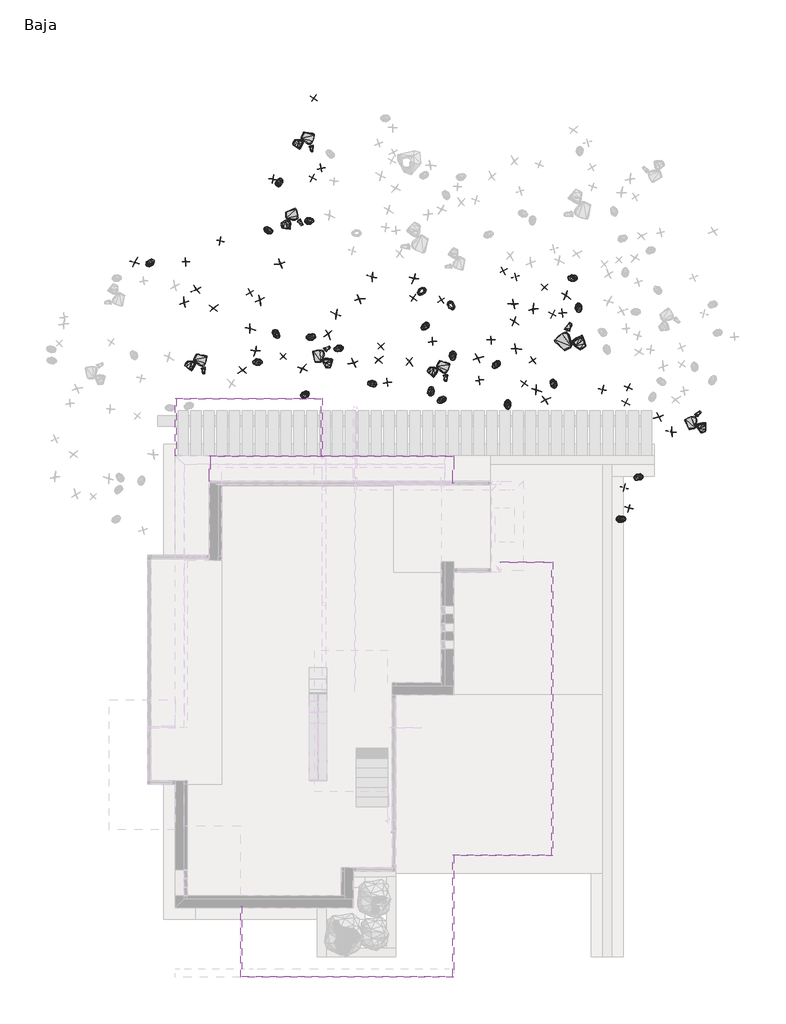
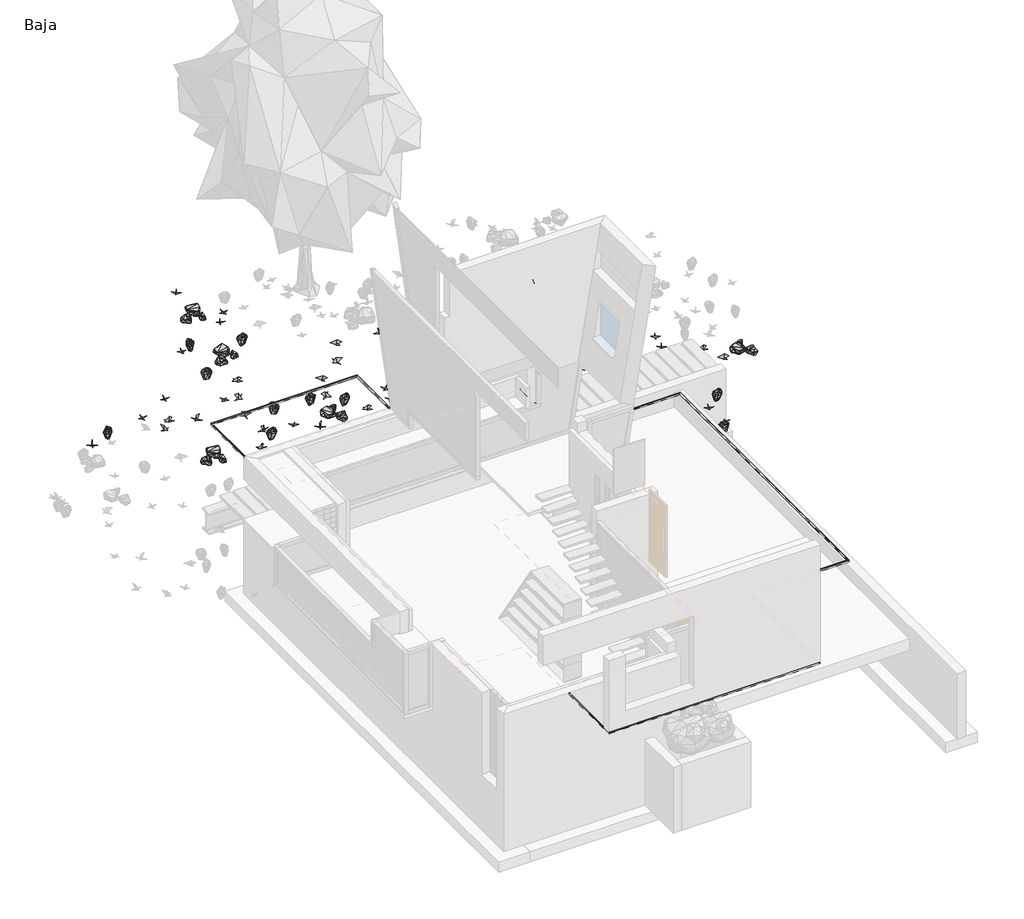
# One storey, part 6 of 7: 85 geographic elements, 3 proxies.
"""IFC4 building model written with IfcOpenShell, lengths in millimetres."""

from ifc_helpers import new_model, si_unit, origin, place, context, project, spatial, transform, mapped, element, save
from components import borde_2_borde_2_66326f44, borde_3_borde_3_d60ba3d7, barrido_1_barrido_1_4d5a64a3, enscape_assetdefinition_bush_025_fern_enscape_5718bf32, enscape_assetdefinition_bush_054_plant_09_version_2_enscape_7b546a12, enscape_assetdefinition_bush_062_plant_09_version_3_enscape_ccf8c8eb, enscape_assetdefinition_stone_013_group_enscape_516da325, enscape_assetdefinition_stone_013_group_enscape_db9b3e91

model = new_model("IFC4")

# Units and contexts
model_context = context("Model", 3, world=origin())
ifc_project = project(units=[si_unit("LENGTHUNIT", "METRE", prefix="MILLI")], contexts=[model_context])

# Site, building, storey
site = spatial("IfcSite", under=ifc_project)
building = spatial("IfcBuilding", under=site)
storey = spatial("IfcBuildingStorey", under=building, Name="Baja", Elevation=0.0)

# Proxies
placement = place(None, origin())
borde_2_borde_2_shape = borde_2_borde_2_66326f44(model_context)
element("IfcBuildingElementProxy", 1, Name="Borde 2 : Borde 2", ObjectType="Borde 2 : Borde 2", at=placement, inside=storey, context=model_context, shape_type="MappedRepresentation", body=[
    mapped(borde_2_borde_2_shape, transform((0.0, 0.0, 0.0), x_axis=(1.0, 0.0, 0.0), y_axis=(0.0, 1.0, 0.0), z_axis=(0.0, 0.0, 1.0))),
])
borde_3_borde_3_shape = borde_3_borde_3_d60ba3d7(model_context)
element("IfcBuildingElementProxy", 2, Name="Borde 3 : Borde 3", ObjectType="Borde 3 : Borde 3", at=placement, inside=storey, context=model_context, shape_type="MappedRepresentation", body=[
    mapped(borde_3_borde_3_shape, transform((0.0, 0.0, 0.0), x_axis=(1.0, 0.0, 0.0), y_axis=(0.0, 1.0, 0.0), z_axis=(0.0, 0.0, 1.0))),
])
barrido_1_barrido_1_shape = barrido_1_barrido_1_4d5a64a3(model_context)
element("IfcBuildingElementProxy", 3, Name="barrido 1 : barrido 1", ObjectType="barrido 1 : barrido 1", at=placement, inside=storey, context=model_context, shape_type="MappedRepresentation", body=[
    mapped(barrido_1_barrido_1_shape, transform((0.0, 0.0, 0.0), x_axis=(1.0, 0.0, 0.0), y_axis=(0.0, 1.0, 0.0), z_axis=(0.0, 0.0, 1.0))),
])

# Geographic elements
enscape_assetdefinition_bush_025_fern_enscape_shape = enscape_assetdefinition_bush_025_fern_enscape_5718bf32(model_context)
element("IfcGeographicElement", 4, ObjectType="Enscape AssetDefinition - Bush 025 Fern : Enscape AssetDefinition - Bush 025 Fern", at=placement, inside=storey, context=model_context, shape_type="MappedRepresentation", body=[
    mapped(enscape_assetdefinition_bush_025_fern_enscape_shape, transform((3124.9675751, 4466.8464661, 663.1121039), x_axis=(-0.017111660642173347, 0.9998535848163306, 0.0), y_axis=(-0.9998535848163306, -0.017111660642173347, 0.0), z_axis=(0.0, 0.0, 1.0))),
])
element("IfcGeographicElement", 5, ObjectType="Enscape AssetDefinition - Bush 025 Fern : Enscape AssetDefinition - Bush 025 Fern", at=placement, inside=storey, context=model_context, shape_type="MappedRepresentation", body=[
    mapped(enscape_assetdefinition_bush_025_fern_enscape_shape, transform((453.2394409, 5693.780899, 776.8011093), x_axis=(-0.9473340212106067, -0.3202471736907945, 0.0), y_axis=(0.3202471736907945, -0.9473340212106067, 0.0), z_axis=(0.0, 0.0, 1.0))),
])
element("IfcGeographicElement", 6, ObjectType="Enscape AssetDefinition - Bush 025 Fern : Enscape AssetDefinition - Bush 025 Fern", at=placement, inside=storey, context=model_context, shape_type="MappedRepresentation", body=[
    mapped(enscape_assetdefinition_bush_025_fern_enscape_shape, transform((9078.9403915, 1995.8076477, 133.4597468), x_axis=(-0.9260826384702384, -0.37732074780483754, 0.0), y_axis=(0.37732074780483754, -0.9260826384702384, 0.0), z_axis=(0.0, 0.0, 1.0))),
])
element("IfcGeographicElement", 7, ObjectType="Enscape AssetDefinition - Bush 025 Fern : Enscape AssetDefinition - Bush 025 Fern", at=placement, inside=storey, context=model_context, shape_type="MappedRepresentation", body=[
    mapped(enscape_assetdefinition_bush_025_fern_enscape_shape, transform((-4946.0601807, 8155.1055908, 168.9269543), x_axis=(0.6920467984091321, 0.7218526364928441, 0.0), y_axis=(-0.7218526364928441, 0.6920467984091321, 0.0), z_axis=(0.0, 0.0, 1.0))),
])
element("IfcGeographicElement", 8, ObjectType="Enscape AssetDefinition - Bush 025 Fern : Enscape AssetDefinition - Bush 025 Fern", at=placement, inside=storey, context=model_context, shape_type="MappedRepresentation", body=[
    mapped(enscape_assetdefinition_bush_025_fern_enscape_shape, transform((5323.102951, 4075.3498077, 716.2405252), x_axis=(0.17534465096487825, -0.9845071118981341, 0.0), y_axis=(0.9845071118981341, 0.17534465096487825, 0.0), z_axis=(0.0, 0.0, 1.0))),
])
element("IfcGeographicElement", 9, ObjectType="Enscape AssetDefinition - Bush 025 Fern : Enscape AssetDefinition - Bush 025 Fern", at=placement, inside=storey, context=model_context, shape_type="MappedRepresentation", body=[
    mapped(enscape_assetdefinition_bush_025_fern_enscape_shape, transform((8590.6581879, 782.3352814, 75.4344463), x_axis=(0.9832940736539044, 0.18202407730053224, 0.0), y_axis=(-0.18202407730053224, 0.9832940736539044, 0.0), z_axis=(0.0, 0.0, 1.0))),
])
element("IfcGeographicElement", 10, ObjectType="Enscape AssetDefinition - Bush 025 Fern : Enscape AssetDefinition - Bush 025 Fern", at=placement, inside=storey, context=model_context, shape_type="MappedRepresentation", body=[
    mapped(enscape_assetdefinition_bush_025_fern_enscape_shape, transform((2845.1402187, 7332.3454857, 999.9999404), x_axis=(-0.737837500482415, -0.6749783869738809, 0.0), y_axis=(0.6749783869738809, -0.737837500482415, 0.0), z_axis=(0.0, 0.0, 1.0))),
])
element("IfcGeographicElement", 11, ObjectType="Enscape AssetDefinition - Bush 025 Fern : Enscape AssetDefinition - Bush 025 Fern", at=placement, inside=storey, context=model_context, shape_type="MappedRepresentation", body=[
    mapped(enscape_assetdefinition_bush_025_fern_enscape_shape, transform((7359.9834442, 6856.6589355, 819.9136853), x_axis=(0.1440197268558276, -0.9895748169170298, 0.0), y_axis=(0.9895748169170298, 0.1440197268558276, 0.0), z_axis=(0.0, 0.0, 1.0))),
])
element("IfcGeographicElement", 12, ObjectType="Enscape AssetDefinition - Bush 025 Fern : Enscape AssetDefinition - Bush 025 Fern", at=placement, inside=storey, context=model_context, shape_type="MappedRepresentation", body=[
    mapped(enscape_assetdefinition_bush_025_fern_enscape_shape, transform((-1238.78479, 10473.3114243, 151.7597437), x_axis=(0.3325033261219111, 0.9431020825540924, 0.0), y_axis=(-0.9431020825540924, 0.3325033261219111, 0.0), z_axis=(0.0, 0.0, 1.0))),
])
element("IfcGeographicElement", 13, ObjectType="Enscape AssetDefinition - Bush 025 Fern : Enscape AssetDefinition - Bush 025 Fern", at=placement, inside=storey, context=model_context, shape_type="MappedRepresentation", body=[
    mapped(enscape_assetdefinition_bush_025_fern_enscape_shape, transform((1421.7433929, 4683.0997467, 588.2584453), x_axis=(-0.9980609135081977, 0.062244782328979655, 0.0), y_axis=(-0.062244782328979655, -0.9980609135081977, 0.0), z_axis=(0.0, 0.0, 1.0))),
])
element("IfcGeographicElement", 14, ObjectType="Enscape AssetDefinition - Bush 025 Fern : Enscape AssetDefinition - Bush 025 Fern", at=placement, inside=storey, context=model_context, shape_type="MappedRepresentation", body=[
    mapped(enscape_assetdefinition_bush_025_fern_enscape_shape, transform((-373.8460541, 9353.0874252, 689.0330315), x_axis=(0.9766416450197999, 0.2148746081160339, 0.0), y_axis=(-0.2148746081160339, 0.9766416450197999, 0.0), z_axis=(0.0, 0.0, 1.0))),
])
element("IfcGeographicElement", 15, ObjectType="Enscape AssetDefinition - Bush 025 Fern : Enscape AssetDefinition - Bush 025 Fern", at=placement, inside=storey, context=model_context, shape_type="MappedRepresentation", body=[
    mapped(enscape_assetdefinition_bush_025_fern_enscape_shape, transform((-1335.8154297, 6099.2469788, 889.3393278), x_axis=(0.6645464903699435, -0.7472469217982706, 0.0), y_axis=(0.7472469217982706, 0.6645464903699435, 0.0), z_axis=(0.0, 0.0, 1.0))),
])
element("IfcGeographicElement", 16, ObjectType="Enscape AssetDefinition - Bush 025 Fern : Enscape AssetDefinition - Bush 025 Fern", at=placement, inside=storey, context=model_context, shape_type="MappedRepresentation", body=[
    mapped(enscape_assetdefinition_bush_025_fern_enscape_shape, transform((7184.694767, 7720.3822136, 878.4562945), x_axis=(-0.9876590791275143, -0.1566191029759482, 0.0), y_axis=(0.1566191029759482, -0.9876590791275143, 0.0), z_axis=(0.0, 0.0, 1.0))),
])
element("IfcGeographicElement", 17, ObjectType="Enscape AssetDefinition - Bush 025 Fern : Enscape AssetDefinition - Bush 025 Fern", at=placement, inside=storey, context=model_context, shape_type="MappedRepresentation", body=[
    mapped(enscape_assetdefinition_bush_025_fern_enscape_shape, transform((6645.5440521, 4691.7915344, 678.5098314), x_axis=(-0.4882452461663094, 0.8727064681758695, 0.0), y_axis=(-0.8727064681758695, -0.4882452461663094, 0.0), z_axis=(0.0, 0.0, 1.0))),
])
element("IfcGeographicElement", 18, ObjectType="Enscape AssetDefinition - Bush 025 Fern : Enscape AssetDefinition - Bush 025 Fern", at=placement, inside=storey, context=model_context, shape_type="MappedRepresentation", body=[
    mapped(enscape_assetdefinition_bush_025_fern_enscape_shape, transform((3700.8800507, 6923.3598709, 999.9999404), x_axis=(0.650219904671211, -0.7597460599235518, 0.0), y_axis=(0.7597460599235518, 0.650219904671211, 0.0), z_axis=(0.0, 0.0, 1.0))),
])
element("IfcGeographicElement", 19, ObjectType="Enscape AssetDefinition - Bush 025 Fern : Enscape AssetDefinition - Bush 025 Fern", at=placement, inside=storey, context=model_context, shape_type="MappedRepresentation", body=[
    mapped(enscape_assetdefinition_bush_025_fern_enscape_shape, transform((-322.0214844, 6020.4558372, 865.8348918), x_axis=(0.9618193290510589, 0.2736851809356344, 0.0), y_axis=(-0.2736851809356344, 0.9618193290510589, 0.0), z_axis=(0.0, 0.0, 1.0))),
])
element("IfcGeographicElement", 20, ObjectType="Enscape AssetDefinition - Bush 025 Fern : Enscape AssetDefinition - Bush 025 Fern", at=placement, inside=storey, context=model_context, shape_type="MappedRepresentation", body=[
    mapped(enscape_assetdefinition_bush_025_fern_enscape_shape, transform((-1878.1299591, 5305.8209419, 784.9656343), x_axis=(-0.9836510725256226, -0.18008488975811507, 0.0), y_axis=(0.18008488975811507, -0.9836510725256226, 0.0), z_axis=(0.0, 0.0, 1.0))),
])
element("IfcGeographicElement", 21, ObjectType="Enscape AssetDefinition - Bush 025 Fern : Enscape AssetDefinition - Bush 025 Fern", at=placement, inside=storey, context=model_context, shape_type="MappedRepresentation", body=[
    mapped(enscape_assetdefinition_bush_025_fern_enscape_shape, transform((4987.5583649, 5225.8877754, 886.8914247), x_axis=(-0.6309398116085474, -0.7758317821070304, 0.0), y_axis=(0.7758317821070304, -0.6309398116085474, 0.0), z_axis=(0.0, 0.0, 1.0))),
])
element("IfcGeographicElement", 22, ObjectType="Enscape AssetDefinition - Bush 025 Fern : Enscape AssetDefinition - Bush 025 Fern", at=placement, inside=storey, context=model_context, shape_type="MappedRepresentation", body=[
    mapped(enscape_assetdefinition_bush_025_fern_enscape_shape, transform((2943.4680939, 6328.5121918, 893.8754797), x_axis=(-0.6813975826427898, -0.7319134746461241, 0.0), y_axis=(0.7319134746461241, -0.6813975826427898, 0.0), z_axis=(0.0, 0.0, 1.0))),
])
element("IfcGeographicElement", 23, ObjectType="Enscape AssetDefinition - Bush 025 Fern : Enscape AssetDefinition - Bush 025 Fern", at=placement, inside=storey, context=model_context, shape_type="MappedRepresentation", body=[
    mapped(enscape_assetdefinition_bush_025_fern_enscape_shape, transform((-1553.9283752, 9080.7962418, 217.5893188), x_axis=(0.9543823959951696, -0.298587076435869, 0.0), y_axis=(0.298587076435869, 0.9543823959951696, 0.0), z_axis=(0.0, 0.0, 1.0))),
])
element("IfcGeographicElement", 24, ObjectType="Enscape AssetDefinition - Bush 025 Fern : Enscape AssetDefinition - Bush 025 Fern", at=placement, inside=storey, context=model_context, shape_type="MappedRepresentation", body=[
    mapped(enscape_assetdefinition_bush_025_fern_enscape_shape, transform((3416.6924953, 4213.0088806, 651.9014835), x_axis=(-0.8236544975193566, -0.5670919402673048, 0.0), y_axis=(0.5670919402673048, -0.8236544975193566, 0.0), z_axis=(0.0, 0.0, 1.0))),
])
element("IfcGeographicElement", 25, ObjectType="Enscape AssetDefinition - Bush 025 Fern : Enscape AssetDefinition - Bush 025 Fern", at=placement, inside=storey, context=model_context, shape_type="MappedRepresentation", body=[
    mapped(enscape_assetdefinition_bush_025_fern_enscape_shape, transform((3743.2041168, 5477.0069122, 895.7661986), x_axis=(0.1075754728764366, -0.9941969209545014, 0.0), y_axis=(0.9941969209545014, 0.1075754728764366, 0.0), z_axis=(0.0, 0.0, 1.0))),
])
element("IfcGeographicElement", 26, ObjectType="Enscape AssetDefinition - Bush 025 Fern : Enscape AssetDefinition - Bush 025 Fern", at=placement, inside=storey, context=model_context, shape_type="MappedRepresentation", body=[
    mapped(enscape_assetdefinition_bush_025_fern_enscape_shape, transform((-516.0788894, 4362.9493713, 664.9568677), x_axis=(-0.8085145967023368, -0.5884761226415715, 0.0), y_axis=(0.5884761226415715, -0.8085145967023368, 0.0), z_axis=(0.0, 0.0, 1.0))),
])
enscape_assetdefinition_bush_054_plant_09_version_2_enscape_shape = enscape_assetdefinition_bush_054_plant_09_version_2_enscape_7b546a12(model_context)
element("IfcGeographicElement", 27, ObjectType="Enscape AssetDefinition - Bush 054 Plant 09, Version 2 : Enscape AssetDefinition - Bush 054 Plant 09, Version 2", at=placement, inside=storey, context=model_context, shape_type="MappedRepresentation", body=[
    mapped(enscape_assetdefinition_bush_054_plant_09_version_2_enscape_shape, transform((3153.9554596, 5893.4364319, 867.5605059), x_axis=(0.1316567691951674, -0.9912953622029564, 0.0), y_axis=(0.9912953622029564, 0.1316567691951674, 0.0), z_axis=(0.0, 0.0, 1.0))),
])
element("IfcGeographicElement", 28, ObjectType="Enscape AssetDefinition - Bush 054 Plant 09, Version 2 : Enscape AssetDefinition - Bush 054 Plant 09, Version 2", at=placement, inside=storey, context=model_context, shape_type="MappedRepresentation", body=[
    mapped(enscape_assetdefinition_bush_054_plant_09_version_2_enscape_shape, transform((-288.2595062, 10599.8907089, 527.9752016), x_axis=(-0.9200528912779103, 0.39179417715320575, 0.0), y_axis=(-0.39179417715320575, -0.9200528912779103, 0.0), z_axis=(0.0, 0.0, 1.0))),
])
element("IfcGeographicElement", 29, ObjectType="Enscape AssetDefinition - Bush 054 Plant 09, Version 2 : Enscape AssetDefinition - Bush 054 Plant 09, Version 2", at=placement, inside=storey, context=model_context, shape_type="MappedRepresentation", body=[
    mapped(enscape_assetdefinition_bush_054_plant_09_version_2_enscape_shape, transform((4513.1015778, 4782.3696136, 845.8566666), x_axis=(-0.9850909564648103, -0.1720343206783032, 0.0), y_axis=(0.1720343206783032, -0.9850909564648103, 0.0), z_axis=(0.0, 0.0, 1.0))),
])
element("IfcGeographicElement", 30, ObjectType="Enscape AssetDefinition - Bush 054 Plant 09, Version 2 : Enscape AssetDefinition - Bush 054 Plant 09, Version 2", at=placement, inside=storey, context=model_context, shape_type="MappedRepresentation", body=[
    mapped(enscape_assetdefinition_bush_054_plant_09_version_2_enscape_shape, transform((-252.2544861, 12888.1807327, 27.2004604), x_axis=(-0.5236813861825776, -0.8519142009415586, 0.0), y_axis=(0.8519142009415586, -0.5236813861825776, 0.0), z_axis=(0.0, 0.0, 1.0))),
])
element("IfcGeographicElement", 31, ObjectType="Enscape AssetDefinition - Bush 054 Plant 09, Version 2 : Enscape AssetDefinition - Bush 054 Plant 09, Version 2", at=placement, inside=storey, context=model_context, shape_type="MappedRepresentation", body=[
    mapped(enscape_assetdefinition_bush_054_plant_09_version_2_enscape_shape, transform((4852.4303436, 5940.4582977, 978.554368), x_axis=(-0.08617389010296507, 0.9962801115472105, 0.0), y_axis=(-0.9962801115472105, -0.08617389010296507, 0.0), z_axis=(0.0, 0.0, 1.0))),
])
element("IfcGeographicElement", 32, ObjectType="Enscape AssetDefinition - Bush 054 Plant 09, Version 2 : Enscape AssetDefinition - Bush 054 Plant 09, Version 2", at=placement, inside=storey, context=model_context, shape_type="MappedRepresentation", body=[
    mapped(enscape_assetdefinition_bush_054_plant_09_version_2_enscape_shape, transform((5199.8195648, 7933.4659576, 999.9999404), x_axis=(-0.8431509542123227, -0.537676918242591, 0.0), y_axis=(0.537676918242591, -0.8431509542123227, 0.0), z_axis=(0.0, 0.0, 1.0))),
])
element("IfcGeographicElement", 33, ObjectType="Enscape AssetDefinition - Bush 054 Plant 09, Version 2 : Enscape AssetDefinition - Bush 054 Plant 09, Version 2", at=placement, inside=storey, context=model_context, shape_type="MappedRepresentation", body=[
    mapped(enscape_assetdefinition_bush_054_plant_09_version_2_enscape_shape, transform((-1128.490448, 5462.9573822, 800.6134629), x_axis=(0.6374919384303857, 0.770457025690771, 0.0), y_axis=(-0.770457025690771, 0.6374919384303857, 0.0), z_axis=(0.0, 0.0, 1.0))),
])
element("IfcGeographicElement", 34, ObjectType="Enscape AssetDefinition - Bush 054 Plant 09, Version 2 : Enscape AssetDefinition - Bush 054 Plant 09, Version 2", at=placement, inside=storey, context=model_context, shape_type="MappedRepresentation", body=[
    mapped(enscape_assetdefinition_bush_054_plant_09_version_2_enscape_shape, transform((8717.3967361, 4136.5890503, 537.4180079), x_axis=(-0.41185452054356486, -0.9112496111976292, 0.0), y_axis=(0.9112496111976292, -0.41185452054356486, 0.0), z_axis=(0.0, 0.0, 1.0))),
])
element("IfcGeographicElement", 35, ObjectType="Enscape AssetDefinition - Bush 054 Plant 09, Version 2 : Enscape AssetDefinition - Bush 054 Plant 09, Version 2", at=placement, inside=storey, context=model_context, shape_type="MappedRepresentation", body=[
    mapped(enscape_assetdefinition_bush_054_plant_09_version_2_enscape_shape, transform((-2080.5799961, 7292.8323746, 786.0989571), x_axis=(0.8478270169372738, 0.5302729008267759, 0.0), y_axis=(-0.5302729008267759, 0.8478270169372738, 0.0), z_axis=(0.0, 0.0, 1.0))),
])
element("IfcGeographicElement", 36, ObjectType="Enscape AssetDefinition - Bush 054 Plant 09, Version 2 : Enscape AssetDefinition - Bush 054 Plant 09, Version 2", at=placement, inside=storey, context=model_context, shape_type="MappedRepresentation", body=[
    mapped(enscape_assetdefinition_bush_054_plant_09_version_2_enscape_shape, transform((8674.8561859, 1692.5830841, 178.7177324), x_axis=(-0.20722651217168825, -0.978292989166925, 0.0), y_axis=(0.978292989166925, -0.20722651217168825, 0.0), z_axis=(0.0, 0.0, 1.0))),
])
element("IfcGeographicElement", 37, ObjectType="Enscape AssetDefinition - Bush 054 Plant 09, Version 2 : Enscape AssetDefinition - Bush 054 Plant 09, Version 2", at=placement, inside=storey, context=model_context, shape_type="MappedRepresentation", body=[
    mapped(enscape_assetdefinition_bush_054_plant_09_version_2_enscape_shape, transform((6053.1749725, 5346.5557098, 757.1216226), x_axis=(0.7859563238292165, 0.6182820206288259, 0.0), y_axis=(-0.6182820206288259, 0.7859563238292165, 0.0), z_axis=(0.0, 0.0, 1.0))),
])
element("IfcGeographicElement", 38, ObjectType="Enscape AssetDefinition - Bush 054 Plant 09, Version 2 : Enscape AssetDefinition - Bush 054 Plant 09, Version 2", at=placement, inside=storey, context=model_context, shape_type="MappedRepresentation", body=[
    mapped(enscape_assetdefinition_bush_054_plant_09_version_2_enscape_shape, transform((6381.9179535, 7455.8038712, 930.5920005), x_axis=(0.7563664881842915, -0.6541480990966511, 0.0), y_axis=(0.6541480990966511, 0.7563664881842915, 0.0), z_axis=(0.0, 0.0, 1.0))),
])
element("IfcGeographicElement", 39, ObjectType="Enscape AssetDefinition - Bush 054 Plant 09, Version 2 : Enscape AssetDefinition - Bush 054 Plant 09, Version 2", at=placement, inside=storey, context=model_context, shape_type="MappedRepresentation", body=[
    mapped(enscape_assetdefinition_bush_054_plant_09_version_2_enscape_shape, transform((-3932.0373535, 8190.2122498, 342.3627615), x_axis=(-0.996399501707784, -0.08478226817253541, 0.0), y_axis=(0.08478226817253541, -0.996399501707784, 0.0), z_axis=(0.0, 0.0, 1.0))),
])
element("IfcGeographicElement", 40, ObjectType="Enscape AssetDefinition - Bush 054 Plant 09, Version 2 : Enscape AssetDefinition - Bush 054 Plant 09, Version 2", at=placement, inside=storey, context=model_context, shape_type="MappedRepresentation", body=[
    mapped(enscape_assetdefinition_bush_054_plant_09_version_2_enscape_shape, transform((-42.6616706, 10876.786232, 568.0587888), x_axis=(0.2299652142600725, -0.9731988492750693, 0.0), y_axis=(0.9731988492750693, 0.2299652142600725, 0.0), z_axis=(0.0, 0.0, 1.0))),
])
element("IfcGeographicElement", 41, ObjectType="Enscape AssetDefinition - Bush 054 Plant 09, Version 2 : Enscape AssetDefinition - Bush 054 Plant 09, Version 2", at=placement, inside=storey, context=model_context, shape_type="MappedRepresentation", body=[
    mapped(enscape_assetdefinition_bush_054_plant_09_version_2_enscape_shape, transform((1859.0658903, 4714.3669128, 574.3973255), x_axis=(0.17779814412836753, -0.9840669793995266, 0.0), y_axis=(0.9840669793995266, 0.17779814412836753, 0.0), z_axis=(0.0, 0.0, 1.0))),
])
element("IfcGeographicElement", 42, ObjectType="Enscape AssetDefinition - Bush 054 Plant 09, Version 2 : Enscape AssetDefinition - Bush 054 Plant 09, Version 2", at=placement, inside=storey, context=model_context, shape_type="MappedRepresentation", body=[
    mapped(enscape_assetdefinition_bush_054_plant_09_version_2_enscape_shape, transform((2606.4646244, 7145.1711655, 951.2686729), x_axis=(-0.4900723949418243, -0.8716817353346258, 0.0), y_axis=(0.8716817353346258, -0.4900723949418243, 0.0), z_axis=(0.0, 0.0, 1.0))),
])
element("IfcGeographicElement", 43, ObjectType="Enscape AssetDefinition - Bush 054 Plant 09, Version 2 : Enscape AssetDefinition - Bush 054 Plant 09, Version 2", at=placement, inside=storey, context=model_context, shape_type="MappedRepresentation", body=[
    mapped(enscape_assetdefinition_bush_054_plant_09_version_2_enscape_shape, transform((5552.6180267, 7754.2028427, 999.9999404), x_axis=(-0.31000707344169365, 0.9507342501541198, 0.0), y_axis=(-0.9507342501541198, -0.31000707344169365, 0.0), z_axis=(0.0, 0.0, 1.0))),
])
element("IfcGeographicElement", 44, ObjectType="Enscape AssetDefinition - Bush 054 Plant 09, Version 2 : Enscape AssetDefinition - Bush 054 Plant 09, Version 2", at=placement, inside=storey, context=model_context, shape_type="MappedRepresentation", body=[
    mapped(enscape_assetdefinition_bush_054_plant_09_version_2_enscape_shape, transform((8792.0055389, 4574.3083954, 552.8213978), x_axis=(-0.3365974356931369, -0.9416486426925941, 0.0), y_axis=(0.9416486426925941, -0.3365974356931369, 0.0), z_axis=(0.0, 0.0, 1.0))),
])
element("IfcGeographicElement", 45, ObjectType="Enscape AssetDefinition - Bush 054 Plant 09, Version 2 : Enscape AssetDefinition - Bush 054 Plant 09, Version 2", at=placement, inside=storey, context=model_context, shape_type="MappedRepresentation", body=[
    mapped(enscape_assetdefinition_bush_054_plant_09_version_2_enscape_shape, transform((6899.0960121, 6721.6134071, 813.0159378), x_axis=(-0.9909922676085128, -0.13391910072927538, 0.0), y_axis=(0.13391910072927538, -0.9909922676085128, 0.0), z_axis=(0.0, 0.0, 1.0))),
])
element("IfcGeographicElement", 46, ObjectType="Enscape AssetDefinition - Bush 054 Plant 09, Version 2 : Enscape AssetDefinition - Bush 054 Plant 09, Version 2", at=placement, inside=storey, context=model_context, shape_type="MappedRepresentation", body=[
    mapped(enscape_assetdefinition_bush_054_plant_09_version_2_enscape_shape, transform((8052.0610809, 4506.6432953, 646.7616558), x_axis=(0.9809299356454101, -0.1943616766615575, 0.0), y_axis=(0.1943616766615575, 0.9809299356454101, 0.0), z_axis=(0.0, 0.0, 1.0))),
])
element("IfcGeographicElement", 47, ObjectType="Enscape AssetDefinition - Bush 054 Plant 09, Version 2 : Enscape AssetDefinition - Bush 054 Plant 09, Version 2", at=placement, inside=storey, context=model_context, shape_type="MappedRepresentation", body=[
    mapped(enscape_assetdefinition_bush_054_plant_09_version_2_enscape_shape, transform((1676.4944792, 5761.9361877, 744.2009449), x_axis=(-0.7203982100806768, -0.6935606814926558, 0.0), y_axis=(0.6935606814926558, -0.7203982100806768, 0.0), z_axis=(0.0, 0.0, 1.0))),
])
element("IfcGeographicElement", 48, ObjectType="Enscape AssetDefinition - Bush 054 Plant 09, Version 2 : Enscape AssetDefinition - Bush 054 Plant 09, Version 2", at=placement, inside=storey, context=model_context, shape_type="MappedRepresentation", body=[
    mapped(enscape_assetdefinition_bush_054_plant_09_version_2_enscape_shape, transform((-1430.0556183, 10554.7771454, 55.5320978), x_axis=(0.9938086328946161, -0.11110536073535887, 0.0), y_axis=(0.11110536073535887, 0.9938086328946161, 0.0), z_axis=(0.0, 0.0, 1.0))),
])
element("IfcGeographicElement", 49, ObjectType="Enscape AssetDefinition - Bush 054 Plant 09, Version 2 : Enscape AssetDefinition - Bush 054 Plant 09, Version 2", at=placement, inside=storey, context=model_context, shape_type="MappedRepresentation", body=[
    mapped(enscape_assetdefinition_bush_054_plant_09_version_2_enscape_shape, transform((5801.1417389, 4683.5956573, 722.4422693), x_axis=(0.5271832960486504, 0.8497515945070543, 0.0), y_axis=(-0.8497515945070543, 0.5271832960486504, 0.0), z_axis=(0.0, 0.0, 1.0))),
])
element("IfcGeographicElement", 50, ObjectType="Enscape AssetDefinition - Bush 054 Plant 09, Version 2 : Enscape AssetDefinition - Bush 054 Plant 09, Version 2", at=placement, inside=storey, context=model_context, shape_type="MappedRepresentation", body=[
    mapped(enscape_assetdefinition_bush_054_plant_09_version_2_enscape_shape, transform((-2939.9681091, 8789.4020081, 212.9004002), x_axis=(-0.9927960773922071, 0.11981631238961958, 0.0), y_axis=(-0.11981631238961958, -0.9927960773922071, 0.0), z_axis=(0.0, 0.0, 1.0))),
])
element("IfcGeographicElement", 51, ObjectType="Enscape AssetDefinition - Bush 054 Plant 09, Version 2 : Enscape AssetDefinition - Bush 054 Plant 09, Version 2", at=placement, inside=storey, context=model_context, shape_type="MappedRepresentation", body=[
    mapped(enscape_assetdefinition_bush_054_plant_09_version_2_enscape_shape, transform((3420.8889008, 7084.2823982, 999.9999404), x_axis=(0.8050854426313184, 0.5931588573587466, 0.0), y_axis=(-0.5931588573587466, 0.8050854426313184, 0.0), z_axis=(0.0, 0.0, 1.0))),
])
element("IfcGeographicElement", 52, ObjectType="Enscape AssetDefinition - Bush 054 Plant 09, Version 2 : Enscape AssetDefinition - Bush 054 Plant 09, Version 2", at=placement, inside=storey, context=model_context, shape_type="MappedRepresentation", body=[
    mapped(enscape_assetdefinition_bush_054_plant_09_version_2_enscape_shape, transform((6615.5948639, 6675.0087738, 818.9541101), x_axis=(0.9199654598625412, -0.3919994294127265, 0.0), y_axis=(0.3919994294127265, 0.9199654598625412, 0.0), z_axis=(0.0, 0.0, 1.0))),
])
element("IfcGeographicElement", 53, ObjectType="Enscape AssetDefinition - Bush 054 Plant 09, Version 2 : Enscape AssetDefinition - Bush 054 Plant 09, Version 2", at=placement, inside=storey, context=model_context, shape_type="MappedRepresentation", body=[
    mapped(enscape_assetdefinition_bush_054_plant_09_version_2_enscape_shape, transform((8817.3274994, 1104.1851044, 57.6130152), x_axis=(0.19934677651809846, 0.9799290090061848, 0.0), y_axis=(-0.9799290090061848, 0.19934677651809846, 0.0), z_axis=(0.0, 0.0, 1.0))),
])
enscape_assetdefinition_bush_062_plant_09_version_3_enscape_shape = enscape_assetdefinition_bush_062_plant_09_version_3_enscape_ccf8c8eb(model_context)
element("IfcGeographicElement", 54, ObjectType="Enscape AssetDefinition - Bush 062 Plant 09, Version 3 : Enscape AssetDefinition - Bush 062 Plant 09, Version 3", at=placement, inside=storey, context=model_context, shape_type="MappedRepresentation", body=[
    mapped(enscape_assetdefinition_bush_062_plant_09_version_3_enscape_shape, transform((7011.2400055, 7213.3188248, 845.3643918), x_axis=(-0.25611841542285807, -0.9666454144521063, 0.0), y_axis=(0.9666454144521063, -0.25611841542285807, 0.0), z_axis=(0.0, 0.0, 1.0))),
])
element("IfcGeographicElement", 55, ObjectType="Enscape AssetDefinition - Bush 062 Plant 09, Version 3 : Enscape AssetDefinition - Bush 062 Plant 09, Version 3", at=placement, inside=storey, context=model_context, shape_type="MappedRepresentation", body=[
    mapped(enscape_assetdefinition_bush_062_plant_09_version_3_enscape_shape, transform((1620.2449799, 5375.453949, 684.8533154), x_axis=(0.8389770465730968, -0.5441668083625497, 0.0), y_axis=(0.5441668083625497, 0.8389770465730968, 0.0), z_axis=(0.0, 0.0, 1.0))),
])
element("IfcGeographicElement", 56, ObjectType="Enscape AssetDefinition - Bush 062 Plant 09, Version 3 : Enscape AssetDefinition - Bush 062 Plant 09, Version 3", at=placement, inside=storey, context=model_context, shape_type="MappedRepresentation", body=[
    mapped(enscape_assetdefinition_bush_062_plant_09_version_3_enscape_shape, transform((6415.5101776, 4219.0113068, 647.9707956), x_axis=(0.6718627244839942, -0.740675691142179, 0.0), y_axis=(0.740675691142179, 0.6718627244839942, 0.0), z_axis=(0.0, 0.0, 1.0))),
])
element("IfcGeographicElement", 57, ObjectType="Enscape AssetDefinition - Bush 062 Plant 09, Version 3 : Enscape AssetDefinition - Bush 062 Plant 09, Version 3", at=placement, inside=storey, context=model_context, shape_type="MappedRepresentation", body=[
    mapped(enscape_assetdefinition_bush_062_plant_09_version_3_enscape_shape, transform((378.818512, 6677.6676178, 923.0045676), x_axis=(0.044988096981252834, 0.9989875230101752, 0.0), y_axis=(-0.9989875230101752, 0.044988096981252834, 0.0), z_axis=(0.0, 0.0, 1.0))),
])
element("IfcGeographicElement", 58, ObjectType="Enscape AssetDefinition - Bush 062 Plant 09, Version 3 : Enscape AssetDefinition - Bush 062 Plant 09, Version 3", at=placement, inside=storey, context=model_context, shape_type="MappedRepresentation", body=[
    mapped(enscape_assetdefinition_bush_062_plant_09_version_3_enscape_shape, transform((-3980.7109833, 7022.7994919, 721.3179469), x_axis=(0.9052319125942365, 0.4249178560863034, 0.0), y_axis=(-0.4249178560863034, 0.9052319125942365, 0.0), z_axis=(0.0, 0.0, 1.0))),
])
element("IfcGeographicElement", 59, ObjectType="Enscape AssetDefinition - Bush 062 Plant 09, Version 3 : Enscape AssetDefinition - Bush 062 Plant 09, Version 3", at=placement, inside=storey, context=model_context, shape_type="MappedRepresentation", body=[
    mapped(enscape_assetdefinition_bush_062_plant_09_version_3_enscape_shape, transform((166.3818359, 6095.8042145, 845.818758), x_axis=(-0.7208990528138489, -0.693040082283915, 0.0), y_axis=(0.693040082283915, -0.7208990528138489, 0.0), z_axis=(0.0, 0.0, 1.0))),
])
element("IfcGeographicElement", 60, ObjectType="Enscape AssetDefinition - Bush 062 Plant 09, Version 3 : Enscape AssetDefinition - Bush 062 Plant 09, Version 3", at=placement, inside=storey, context=model_context, shape_type="MappedRepresentation", body=[
    mapped(enscape_assetdefinition_bush_062_plant_09_version_3_enscape_shape, transform((2508.3312988, 5307.6858521, 704.2188644), x_axis=(-0.5460327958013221, -0.8377638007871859, 0.0), y_axis=(0.8377638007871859, -0.5460327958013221, 0.0), z_axis=(0.0, 0.0, 1.0))),
])
element("IfcGeographicElement", 61, ObjectType="Enscape AssetDefinition - Bush 062 Plant 09, Version 3 : Enscape AssetDefinition - Bush 062 Plant 09, Version 3", at=placement, inside=storey, context=model_context, shape_type="MappedRepresentation", body=[
    mapped(enscape_assetdefinition_bush_062_plant_09_version_3_enscape_shape, transform((6057.3291779, 6834.0072632, 909.8366499), x_axis=(0.9590122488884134, 0.28336461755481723, 0.0), y_axis=(-0.28336461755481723, 0.9590122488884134, 0.0), z_axis=(0.0, 0.0, 1.0))),
])
element("IfcGeographicElement", 62, ObjectType="Enscape AssetDefinition - Bush 062 Plant 09, Version 3 : Enscape AssetDefinition - Bush 062 Plant 09, Version 3", at=placement, inside=storey, context=model_context, shape_type="MappedRepresentation", body=[
    mapped(enscape_assetdefinition_bush_062_plant_09_version_3_enscape_shape, transform((-1921.8044281, 5612.0643616, 835.6153369), x_axis=(-0.9971917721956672, -0.07489038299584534, 0.0), y_axis=(0.07489038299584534, -0.9971917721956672, 0.0), z_axis=(0.0, 0.0, 1.0))),
])
element("IfcGeographicElement", 63, ObjectType="Enscape AssetDefinition - Bush 062 Plant 09, Version 3 : Enscape AssetDefinition - Bush 062 Plant 09, Version 3", at=placement, inside=storey, context=model_context, shape_type="MappedRepresentation", body=[
    mapped(enscape_assetdefinition_bush_062_plant_09_version_3_enscape_shape, transform((10029.001236, 3295.1526642, 250.8500218), x_axis=(-0.18998525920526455, 0.9817869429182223, 0.0), y_axis=(-0.9817869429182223, -0.18998525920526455, 0.0), z_axis=(0.0, 0.0, 1.0))),
])
element("IfcGeographicElement", 64, ObjectType="Enscape AssetDefinition - Bush 062 Plant 09, Version 3 : Enscape AssetDefinition - Bush 062 Plant 09, Version 3", at=placement, inside=storey, context=model_context, shape_type="MappedRepresentation", body=[
    mapped(enscape_assetdefinition_bush_062_plant_09_version_3_enscape_shape, transform((6155.9696198, 4504.655838, 668.2627201), x_axis=(0.05883568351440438, -0.9982676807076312, 0.0), y_axis=(0.9982676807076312, 0.05883568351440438, 0.0), z_axis=(0.0, 0.0, 1.0))),
])
element("IfcGeographicElement", 65, ObjectType="Enscape AssetDefinition - Bush 062 Plant 09, Version 3 : Enscape AssetDefinition - Bush 062 Plant 09, Version 3", at=placement, inside=storey, context=model_context, shape_type="MappedRepresentation", body=[
    mapped(enscape_assetdefinition_bush_062_plant_09_version_3_enscape_shape, transform((1414.6881104, 7748.913765, 999.9998808), x_axis=(-0.05339002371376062, 0.9985737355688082, 0.0), y_axis=(-0.9985737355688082, -0.05339002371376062, 0.0), z_axis=(0.0, 0.0, 1.0))),
])
element("IfcGeographicElement", 66, ObjectType="Enscape AssetDefinition - Bush 062 Plant 09, Version 3 : Enscape AssetDefinition - Bush 062 Plant 09, Version 3", at=placement, inside=storey, context=model_context, shape_type="MappedRepresentation", body=[
    mapped(enscape_assetdefinition_bush_062_plant_09_version_3_enscape_shape, transform((-3630.9585571, 7378.9281845, 639.6725178), x_axis=(-0.6709423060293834, 0.7415095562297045, 0.0), y_axis=(-0.7415095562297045, -0.6709423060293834, 0.0), z_axis=(0.0, 0.0, 1.0))),
])
element("IfcGeographicElement", 67, ObjectType="Enscape AssetDefinition - Bush 062 Plant 09, Version 3 : Enscape AssetDefinition - Bush 062 Plant 09, Version 3", at=placement, inside=storey, context=model_context, shape_type="MappedRepresentation", body=[
    mapped(enscape_assetdefinition_bush_062_plant_09_version_3_enscape_shape, transform((-1792.011261, 7077.1770477, 876.9242764), x_axis=(-0.8857198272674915, -0.46422019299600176, 0.0), y_axis=(0.46422019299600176, -0.8857198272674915, 0.0), z_axis=(0.0, 0.0, 1.0))),
])
element("IfcGeographicElement", 68, ObjectType="Enscape AssetDefinition - Bush 062 Plant 09, Version 3 : Enscape AssetDefinition - Bush 062 Plant 09, Version 3", at=placement, inside=storey, context=model_context, shape_type="MappedRepresentation", body=[
    mapped(enscape_assetdefinition_bush_062_plant_09_version_3_enscape_shape, transform((-5397.6364136, 8180.5934906, 34.9094868), x_axis=(0.9845248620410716, -0.17524496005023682, 0.0), y_axis=(0.17524496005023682, 0.9845248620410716, 0.0), z_axis=(0.0, 0.0, 1.0))),
])
element("IfcGeographicElement", 69, ObjectType="Enscape AssetDefinition - Bush 062 Plant 09, Version 3 : Enscape AssetDefinition - Bush 062 Plant 09, Version 3", at=placement, inside=storey, context=model_context, shape_type="MappedRepresentation", body=[
    mapped(enscape_assetdefinition_bush_062_plant_09_version_3_enscape_shape, transform((5481.3323021, 6965.1355743, 999.9999404), x_axis=(-0.29452680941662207, 0.9556432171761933, 0.0), y_axis=(-0.9556432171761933, -0.29452680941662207, 0.0), z_axis=(0.0, 0.0, 1.0))),
])
element("IfcGeographicElement", 70, ObjectType="Enscape AssetDefinition - Bush 062 Plant 09, Version 3 : Enscape AssetDefinition - Bush 062 Plant 09, Version 3", at=placement, inside=storey, context=model_context, shape_type="MappedRepresentation", body=[
    mapped(enscape_assetdefinition_bush_062_plant_09_version_3_enscape_shape, transform((4475.2488136, 5422.9736328, 970.913291), x_axis=(0.5377644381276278, -0.8430951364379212, 0.0), y_axis=(0.8430951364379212, 0.5377644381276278, 0.0), z_axis=(0.0, 0.0, 1.0))),
])
element("IfcGeographicElement", 71, ObjectType="Enscape AssetDefinition - Bush 062 Plant 09, Version 3 : Enscape AssetDefinition - Bush 062 Plant 09, Version 3", at=placement, inside=storey, context=model_context, shape_type="MappedRepresentation", body=[
    mapped(enscape_assetdefinition_bush_062_plant_09_version_3_enscape_shape, transform((884.677887, 5274.8737335, 696.8297958), x_axis=(-0.5397685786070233, 0.8418134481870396, 0.0), y_axis=(-0.8418134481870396, -0.5397685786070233, 0.0), z_axis=(0.0, 0.0, 1.0))),
])
element("IfcGeographicElement", 72, ObjectType="Enscape AssetDefinition - Bush 062 Plant 09, Version 3 : Enscape AssetDefinition - Bush 062 Plant 09, Version 3", at=placement, inside=storey, context=model_context, shape_type="MappedRepresentation", body=[
    mapped(enscape_assetdefinition_bush_062_plant_09_version_3_enscape_shape, transform((-1226.7819643, 8127.3679733, 566.2634373), x_axis=(-0.4697688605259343, 0.882789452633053, 0.0), y_axis=(-0.882789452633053, -0.4697688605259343, 0.0), z_axis=(0.0, 0.0, 1.0))),
])
element("IfcGeographicElement", 73, ObjectType="Enscape AssetDefinition - Bush 062 Plant 09, Version 3 : Enscape AssetDefinition - Bush 062 Plant 09, Version 3", at=placement, inside=storey, context=model_context, shape_type="MappedRepresentation", body=[
    mapped(enscape_assetdefinition_bush_062_plant_09_version_3_enscape_shape, transform((5567.281723, 5690.4997826, 857.4033976), x_axis=(0.24569494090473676, -0.9693472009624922, 0.0), y_axis=(0.9693472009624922, 0.24569494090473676, 0.0), z_axis=(0.0, 0.0, 1.0))),
])
element("IfcGeographicElement", 74, ObjectType="Enscape AssetDefinition - Bush 062 Plant 09, Version 3 : Enscape AssetDefinition - Bush 062 Plant 09, Version 3", at=placement, inside=storey, context=model_context, shape_type="MappedRepresentation", body=[
    mapped(enscape_assetdefinition_bush_062_plant_09_version_3_enscape_shape, transform((-2301.1875153, 5060.4476929, 763.1474137), x_axis=(-0.8134949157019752, 0.5815720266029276, 0.0), y_axis=(-0.5815720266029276, -0.8134949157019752, 0.0), z_axis=(0.0, 0.0, 1.0))),
])
element("IfcGeographicElement", 75, ObjectType="Enscape AssetDefinition - Bush 062 Plant 09, Version 3 : Enscape AssetDefinition - Bush 062 Plant 09, Version 3", at=placement, inside=storey, context=model_context, shape_type="MappedRepresentation", body=[
    mapped(enscape_assetdefinition_bush_062_plant_09_version_3_enscape_shape, transform((-2072.2103119, 6266.4146423, 946.1768866), x_axis=(0.07639121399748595, -0.9970779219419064, 0.0), y_axis=(0.9970779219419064, 0.07639121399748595, 0.0), z_axis=(0.0, 0.0, 1.0))),
])
element("IfcGeographicElement", 76, ObjectType="Enscape AssetDefinition - Bush 062 Plant 09, Version 3 : Enscape AssetDefinition - Bush 062 Plant 09, Version 3", at=placement, inside=storey, context=model_context, shape_type="MappedRepresentation", body=[
    mapped(enscape_assetdefinition_bush_062_plant_09_version_3_enscape_shape, transform((2630.1498413, 7698.2507706, 960.251689), x_axis=(-0.9999015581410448, 0.01403118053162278, 0.0), y_axis=(-0.01403118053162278, -0.9999015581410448, 0.0), z_axis=(0.0, 0.0, 1.0))),
])
element("IfcGeographicElement", 77, ObjectType="Enscape AssetDefinition - Bush 062 Plant 09, Version 3 : Enscape AssetDefinition - Bush 062 Plant 09, Version 3", at=placement, inside=storey, context=model_context, shape_type="MappedRepresentation", body=[
    mapped(enscape_assetdefinition_bush_062_plant_09_version_3_enscape_shape, transform((5523.2028961, 6468.3895111, 943.4405565), x_axis=(-0.2408652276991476, -0.9705585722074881, 0.0), y_axis=(0.9705585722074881, -0.2408652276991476, 0.0), z_axis=(0.0, 0.0, 1.0))),
])
element("IfcGeographicElement", 78, ObjectType="Enscape AssetDefinition - Bush 062 Plant 09, Version 3 : Enscape AssetDefinition - Bush 062 Plant 09, Version 3", at=placement, inside=storey, context=model_context, shape_type="MappedRepresentation", body=[
    mapped(enscape_assetdefinition_bush_062_plant_09_version_3_enscape_shape, transform((1066.434741, 7112.9465103, 973.1866121), x_axis=(0.41802961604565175, -0.9084333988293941, 0.0), y_axis=(0.9084333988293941, 0.41802961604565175, 0.0), z_axis=(0.0, 0.0, 1.0))),
])
element("IfcGeographicElement", 79, ObjectType="Enscape AssetDefinition - Bush 062 Plant 09, Version 3 : Enscape AssetDefinition - Bush 062 Plant 09, Version 3", at=placement, inside=storey, context=model_context, shape_type="MappedRepresentation", body=[
    mapped(enscape_assetdefinition_bush_062_plant_09_version_3_enscape_shape, transform((-3131.3171387, 6859.7192764, 838.1693363), x_axis=(0.8491613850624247, -0.5281334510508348, 0.0), y_axis=(0.5281334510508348, 0.8491613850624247, 0.0), z_axis=(0.0, 0.0, 1.0))),
])
element("IfcGeographicElement", 80, ObjectType="Enscape AssetDefinition - Bush 062 Plant 09, Version 3 : Enscape AssetDefinition - Bush 062 Plant 09, Version 3", at=placement, inside=storey, context=model_context, shape_type="MappedRepresentation", body=[
    mapped(enscape_assetdefinition_bush_062_plant_09_version_3_enscape_shape, transform((9665.8573151, 3715.6181335, 393.9841986), x_axis=(-0.5588827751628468, 0.8292466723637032, 0.0), y_axis=(-0.8292466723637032, -0.5588827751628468, 0.0), z_axis=(0.0, 0.0, 1.0))),
])
element("IfcGeographicElement", 81, ObjectType="Enscape AssetDefinition - Bush 062 Plant 09, Version 3 : Enscape AssetDefinition - Bush 062 Plant 09, Version 3", at=placement, inside=storey, context=model_context, shape_type="MappedRepresentation", body=[
    mapped(enscape_assetdefinition_bush_062_plant_09_version_3_enscape_shape, transform((-569.7650909, 5123.7049103, 765.8314109), x_axis=(0.9623771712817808, -0.27171709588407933, 0.0), y_axis=(0.27171709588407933, 0.9623771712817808, 0.0), z_axis=(0.0, 0.0, 1.0))),
])
enscape_assetdefinition_stone_013_group_enscape_shape = enscape_assetdefinition_stone_013_group_enscape_516da325(model_context)
element("IfcGeographicElement", 82, ObjectType="Enscape AssetDefinition - Stone 013 Group : Enscape AssetDefinition - Stone 013 Group", at=placement, inside=storey, context=model_context, shape_type="MappedRepresentation", body=[
    mapped(enscape_assetdefinition_stone_013_group_enscape_shape, transform((7117.7577972, 6011.0244751, 764.5086646), x_axis=(-0.6463312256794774, 0.7630569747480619, 0.0), y_axis=(-0.7630569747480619, -0.6463312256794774, 0.0), z_axis=(0.0, 0.0, 1.0))),
])
enscape_assetdefinition_stone_013_group_enscape_2_shape = enscape_assetdefinition_stone_013_group_enscape_db9b3e91(model_context)
element("IfcGeographicElement", 83, ObjectType="Enscape AssetDefinition - Stone 013 Group : Enscape AssetDefinition - Stone 013 Group 2", at=placement, inside=storey, context=model_context, shape_type="MappedRepresentation", body=[
    mapped(enscape_assetdefinition_stone_013_group_enscape_2_shape, transform((10755.3310394, 3597.8183746, 147.9572058), x_axis=(-0.3586868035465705, 0.9334579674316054, 0.0), y_axis=(-0.9334579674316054, -0.3586868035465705, 0.0), z_axis=(0.0, 0.0, 1.0))),
])
element("IfcGeographicElement", 84, ObjectType="Enscape AssetDefinition - Stone 013 Group : Enscape AssetDefinition - Stone 013 Group 2", at=placement, inside=storey, context=model_context, shape_type="MappedRepresentation", body=[
    mapped(enscape_assetdefinition_stone_013_group_enscape_2_shape, transform((3403.5396576, 5028.8596153, 791.9797897), x_axis=(0.9367892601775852, -0.3498941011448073, 0.0), y_axis=(0.3498941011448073, 0.9367892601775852, 0.0), z_axis=(0.0, 0.0, 1.0))),
])
element("IfcGeographicElement", 85, ObjectType="Enscape AssetDefinition - Stone 013 Group : Enscape AssetDefinition - Stone 013 Group 2", at=placement, inside=storey, context=model_context, shape_type="MappedRepresentation", body=[
    mapped(enscape_assetdefinition_stone_013_group_enscape_2_shape, transform((41.4085388, 5485.6891632, 775.1312256), x_axis=(-0.15185535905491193, 0.9884027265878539, 0.0), y_axis=(-0.9884027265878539, -0.15185535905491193, 0.0), z_axis=(0.0, 0.0, 1.0))),
])
element("IfcGeographicElement", 86, ObjectType="Enscape AssetDefinition - Stone 013 Group : Enscape AssetDefinition - Stone 013 Group 2", at=placement, inside=storey, context=model_context, shape_type="MappedRepresentation", body=[
    mapped(enscape_assetdefinition_stone_013_group_enscape_2_shape, transform((-850.4390717, 9384.2000961, 472.6079106), x_axis=(0.9664944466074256, 0.2566875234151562, 0.0), y_axis=(-0.2566875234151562, 0.9664944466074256, 0.0), z_axis=(0.0, 0.0, 1.0))),
])
element("IfcGeographicElement", 87, ObjectType="Enscape AssetDefinition - Stone 013 Group : Enscape AssetDefinition - Stone 013 Group 2", at=placement, inside=storey, context=model_context, shape_type="MappedRepresentation", body=[
    mapped(enscape_assetdefinition_stone_013_group_enscape_2_shape, transform((-3564.0602112, 5225.9879112, 841.2927389), x_axis=(0.9581601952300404, -0.28623249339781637, 0.0), y_axis=(0.28623249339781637, 0.9581601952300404, 0.0), z_axis=(0.0, 0.0, 1.0))),
])
element("IfcGeographicElement", 88, ObjectType="Enscape AssetDefinition - Stone 013 Group : Enscape AssetDefinition - Stone 013 Group 2", at=placement, inside=storey, context=model_context, shape_type="MappedRepresentation", body=[
    mapped(enscape_assetdefinition_stone_013_group_enscape_2_shape, transform((-469.2592621, 11604.7344208, 225.9358764), x_axis=(0.971293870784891, -0.23788277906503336, 0.0), y_axis=(0.23788277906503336, 0.971293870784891, 0.0), z_axis=(0.0, 0.0, 1.0))),
])

save(model, "model.ifc")
